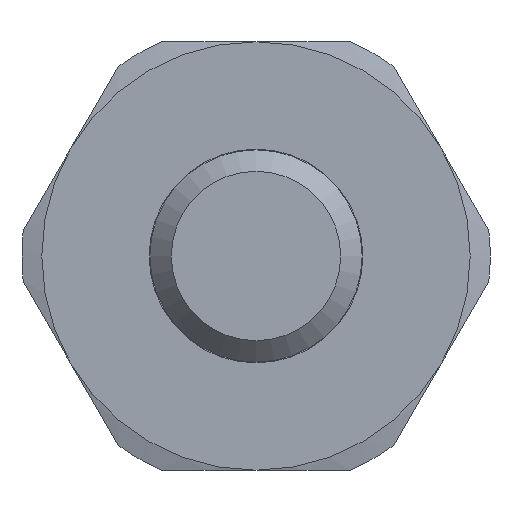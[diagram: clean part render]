
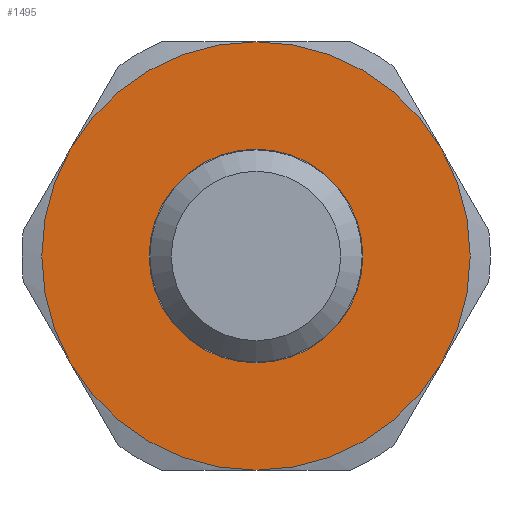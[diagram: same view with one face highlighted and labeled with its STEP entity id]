
A CAD part, left-side view. The second image highlights one B-rep face of the part: STEP entity #1495.
In plain terms, the highlighted planar face has unit normal (-1, 0, 0).
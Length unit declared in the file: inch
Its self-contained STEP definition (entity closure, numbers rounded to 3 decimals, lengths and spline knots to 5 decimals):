
#744=CARTESIAN_POINT('',(-0.219,-0.2495,0.0));
#745=VERTEX_POINT('',#744);
#746=CARTESIAN_POINT('',(-0.219,0.,0.0));
#747=DIRECTION('',(1.0,0.0,0.0));
#748=DIRECTION('',(0.0,-1.0,0.0));
#749=AXIS2_PLACEMENT_3D('',#746,#747,#748);
#750=CIRCLE('',#749,0.2495);
#751=EDGE_CURVE('',#745,#745,#750,.T.);
#1431=CARTESIAN_POINT('',(-0.219,0.0,0.0));
#1432=DIRECTION('',(1.0,0.0,0.0));
#1433=DIRECTION('',(0.0,1.0,0.0));
#1434=AXIS2_PLACEMENT_3D('',#1431,#1432,#1433);
#1435=PLANE('',#1434);
#1436=CARTESIAN_POINT('',(-0.219,0.43301,-0.25));
#1437=VERTEX_POINT('',#1436);
#1438=CARTESIAN_POINT('',(-0.219,0.0,-0.5));
#1439=VERTEX_POINT('',#1438);
#1440=CARTESIAN_POINT('',(-0.219,0.0,0.0));
#1441=DIRECTION('',(-1.0,0.0,0.0));
#1442=DIRECTION('',(0.0,1.0,0.0));
#1443=AXIS2_PLACEMENT_3D('',#1440,#1441,#1442);
#1444=CIRCLE('',#1443,0.5);
#1445=EDGE_CURVE('',#1437,#1439,#1444,.T.);
#1446=ORIENTED_EDGE('',*,*,#1445,.T.);
#1447=CARTESIAN_POINT('',(-0.219,-0.43301,-0.25));
#1448=VERTEX_POINT('',#1447);
#1449=CARTESIAN_POINT('',(-0.219,0.0,0.0));
#1450=DIRECTION('',(-1.0,0.0,0.0));
#1451=DIRECTION('',(0.0,1.0,0.0));
#1452=AXIS2_PLACEMENT_3D('',#1449,#1450,#1451);
#1453=CIRCLE('',#1452,0.5);
#1454=EDGE_CURVE('',#1439,#1448,#1453,.T.);
#1455=ORIENTED_EDGE('',*,*,#1454,.T.);
#1456=CARTESIAN_POINT('',(-0.219,-0.43301,0.25));
#1457=VERTEX_POINT('',#1456);
#1458=CARTESIAN_POINT('',(-0.219,0.0,0.0));
#1459=DIRECTION('',(-1.0,0.0,0.0));
#1460=DIRECTION('',(0.0,1.0,0.0));
#1461=AXIS2_PLACEMENT_3D('',#1458,#1459,#1460);
#1462=CIRCLE('',#1461,0.5);
#1463=EDGE_CURVE('',#1448,#1457,#1462,.T.);
#1464=ORIENTED_EDGE('',*,*,#1463,.T.);
#1465=CARTESIAN_POINT('',(-0.219,0.0,0.5));
#1466=VERTEX_POINT('',#1465);
#1467=CARTESIAN_POINT('',(-0.219,0.0,0.0));
#1468=DIRECTION('',(-1.0,0.0,0.0));
#1469=DIRECTION('',(0.0,1.0,0.0));
#1470=AXIS2_PLACEMENT_3D('',#1467,#1468,#1469);
#1471=CIRCLE('',#1470,0.5);
#1472=EDGE_CURVE('',#1457,#1466,#1471,.T.);
#1473=ORIENTED_EDGE('',*,*,#1472,.T.);
#1474=CARTESIAN_POINT('',(-0.219,0.43301,0.25));
#1475=VERTEX_POINT('',#1474);
#1476=CARTESIAN_POINT('',(-0.219,0.0,0.0));
#1477=DIRECTION('',(-1.0,0.0,0.0));
#1478=DIRECTION('',(0.0,1.0,0.0));
#1479=AXIS2_PLACEMENT_3D('',#1476,#1477,#1478);
#1480=CIRCLE('',#1479,0.5);
#1481=EDGE_CURVE('',#1466,#1475,#1480,.T.);
#1482=ORIENTED_EDGE('',*,*,#1481,.T.);
#1483=CARTESIAN_POINT('',(-0.219,0.0,0.0));
#1484=DIRECTION('',(-1.0,0.0,0.0));
#1485=DIRECTION('',(0.0,1.0,0.0));
#1486=AXIS2_PLACEMENT_3D('',#1483,#1484,#1485);
#1487=CIRCLE('',#1486,0.5);
#1488=EDGE_CURVE('',#1475,#1437,#1487,.T.);
#1489=ORIENTED_EDGE('',*,*,#1488,.T.);
#1490=EDGE_LOOP('',(#1446,#1455,#1464,#1473,#1482,#1489));
#1491=FACE_OUTER_BOUND('',#1490,.T.);
#1492=ORIENTED_EDGE('',*,*,#751,.T.);
#1493=EDGE_LOOP('',(#1492));
#1494=FACE_BOUND('',#1493,.T.);
#1495=ADVANCED_FACE('',(#1491,#1494),#1435,.F.);
